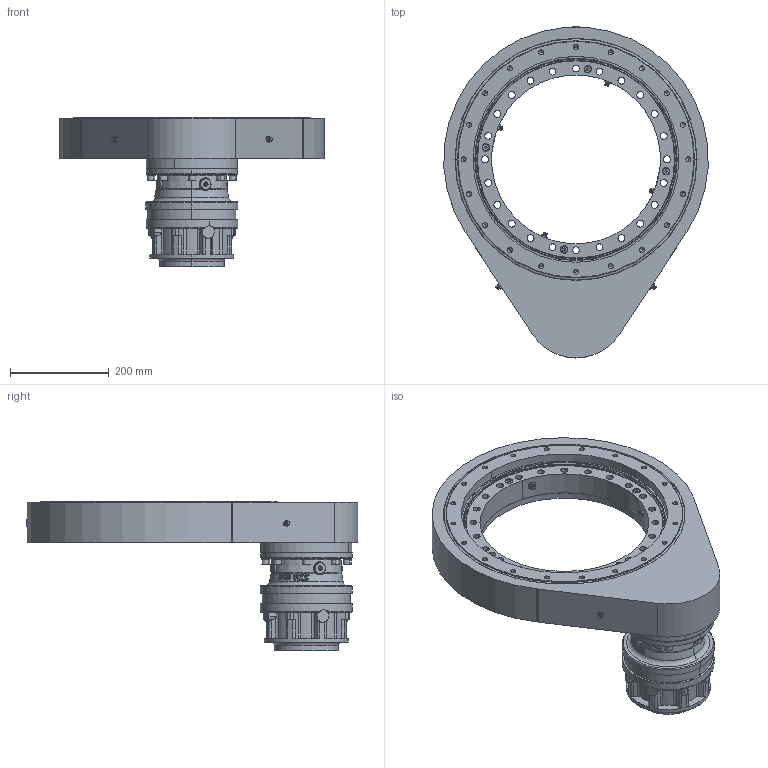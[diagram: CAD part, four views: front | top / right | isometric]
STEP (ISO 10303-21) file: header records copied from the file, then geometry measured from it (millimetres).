
FILE_DESCRIPTION((''),'2;1');
FILE_NAME('RGS20415-K20EA06-001-_SW0002','2024-12-20T10:13:39',('cobmac0'),('LIEBHERR'),'CREO PARAMETRIC BY PTC INC, 2024133','CREO PARAMETRIC BY PTC INC, 2024133','');
FILE_SCHEMA(('AP242_MANAGED_MODEL_BASED_3D_ENGINEERING_MIM_LF { 1 0 10303 442 1 1 4 }'));
Length unit declared in the file: millimetre
Products named in the file (1): RGS20415-K20EA06-001-_SW0002
Bounding box: 535.07 x 672 x 303.5 mm (x, y, z)
Volume: 16987647.5 mm3; surface area: 845459.2 mm2
Topology: 1 solids, 1 shells, 997 faces, 2524 edges, 1590 vertices
Faces by surface type: cylinder 388, plane 338, cone 202, torus 69
Entity records: 45886 total; most frequent: CARTESIAN_POINT 8465, DIRECTION 4965, ORIENTED_EDGE 4884, PRESENTATION_STYLE_ASSIGNMENT 3340, STYLED_ITEM 2443, CURVE_STYLE 2442, EDGE_CURVE 2442, AXIS2_PLACEMENT_3D 1963
